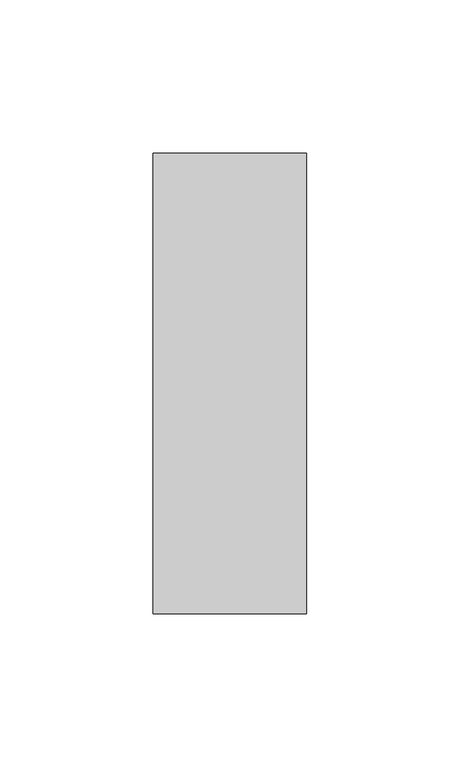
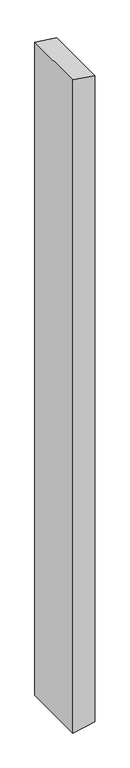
"""IFC4 building model written with IfcOpenShell, lengths in millimetres: member geometry, Прямоугольный импост : 50 x 150 мм."""

import ifcopenshell
import ifcopenshell.guid

model = None  # the IFC model being written
_history = None  # IfcOwnerHistory: only IFC2X3 demands one
_inside = {}  # id of a spatial element -> (the spatial element, [elements in it])
_under = {}  # id of a project, library or spatial element -> (it, [spatial elements below it])
_declared = {}  # id of a project -> (the project, [libraries it declares])
_typed = {}  # id of a type object -> (the type object, [elements of that type])
_made_of = {}  # id of a material, layer set ... -> (it, [elements and type objects made of it])


def new_model(schema):
    """Start an empty IFC model of exactly this schema.

    Asked for "IFC4X3", IfcOpenShell would pick the latest addendum, in which some entities
    have other attributes; the version numbers below select the first issue.
    IFC2X3 requires an IfcOwnerHistory on every rooted entity: one is made here for all.
    """
    global model, _history
    if schema == "IFC4X3":
        model = ifcopenshell.file(schema_version=(4, 3, 0, 0))
    else:
        model = ifcopenshell.file(schema=schema)
    _inside.clear()
    _under.clear()
    _declared.clear()
    _typed.clear()
    _made_of.clear()
    _history = None
    if model.schema == "IFC2X3":
        org = make("IfcOrganization", Name="unknown")
        user = make(
            "IfcPersonAndOrganization",
            ThePerson=make("IfcPerson", FamilyName="unknown"),
            TheOrganization=org,
        )
        app = make(
            "IfcApplication",
            ApplicationDeveloper=org,
            Version="unknown",
            ApplicationFullName="unknown",
            ApplicationIdentifier="unknown",
        )
        _history = make(
            "IfcOwnerHistory",
            OwningUser=user,
            OwningApplication=app,
            ChangeAction="ADDED",
            CreationDate=0,
        )
    return model


def make(cls, **values):
    """One entity of the class cls with the attributes given. An attribute that is None is left unset."""
    return model.create_entity(
        cls, **{name: value for name, value in values.items() if value is not None}
    )


def rooted(cls, **values):
    """An entity with a GlobalId (a new one), such as an element, a storey or a relation."""
    return make(cls, GlobalId=ifcopenshell.guid.new(), OwnerHistory=_history, **values)


def si_unit(unit_type, name, prefix=None):
    """IfcSIUnit, for example si_unit("LENGTHUNIT", "METRE", prefix="MILLI")."""
    return make("IfcSIUnit", UnitType=unit_type, Prefix=prefix, Name=name)


def assignment(units):
    """IfcUnitAssignment: the units of a project."""
    return None if units is None else make("IfcUnitAssignment", Units=units)


def point(xyz):
    """IfcCartesianPoint."""
    return None if xyz is None else make("IfcCartesianPoint", Coordinates=xyz)


def direction(xyz):
    """IfcDirection."""
    return None if xyz is None else make("IfcDirection", DirectionRatios=xyz)


def frame(location, z_axis=None, x_axis=None):
    """IfcAxis2Placement3D, a coordinate frame: its origin and axes. An axis left out is left unset."""
    return make(
        "IfcAxis2Placement3D",
        Location=point(location),
        Axis=direction(z_axis),
        RefDirection=direction(x_axis),
    )


def origin():
    """The frame at (0, 0, 0) with its axes left unset."""
    return frame((0.0, 0.0, 0.0))


def place(relative_to, where):
    """IfcLocalPlacement: puts the frame where relative to a parent placement (None: the world)."""
    return make(
        "IfcLocalPlacement", PlacementRelTo=relative_to, RelativePlacement=where
    )


def context(
    kind, dimensions, precision=None, world=None, true_north=None, identifier=None
):
    """IfcGeometricRepresentationContext, for example the 3D "Model" context."""
    return make(
        "IfcGeometricRepresentationContext",
        ContextIdentifier=identifier,
        ContextType=kind,
        CoordinateSpaceDimension=dimensions,
        Precision=precision,
        WorldCoordinateSystem=world,
        TrueNorth=true_north,
    )


def project(units=None, contexts=None):
    """IfcProject with its units and contexts."""
    return rooted(
        "IfcProject",
        Name="project",
        RepresentationContexts=contexts,
        UnitsInContext=assignment(units),
    )


def spatial(cls, under=None, at=None, **own):
    """A site, building, storey or space (cls), placed at a placement, below another one or the project."""
    s = rooted(cls, ObjectPlacement=at, **own)
    if under is not None:
        _under.setdefault(under.id(), (under, []))[1].append(s)
    return s


def polyline(points):
    """IfcPolyline through the points."""
    return make("IfcPolyline", Points=[point(p) for p in points])


def outline(outer, holes=None, kind="AREA"):
    """IfcArbitraryClosedProfileDef: a profile drawn as a closed curve; with holes, ...WithVoids."""
    if holes is None:
        return make("IfcArbitraryClosedProfileDef", ProfileType=kind, OuterCurve=outer)
    return make(
        "IfcArbitraryProfileDefWithVoids",
        ProfileType=kind,
        OuterCurve=outer,
        InnerCurves=holes,
    )


def extrude(swept, where, along, depth):
    """IfcExtrudedAreaSolid: the profile swept, set in the frame where, extruded along a direction by depth."""
    return make(
        "IfcExtrudedAreaSolid",
        SweptArea=swept,
        Position=where,
        ExtrudedDirection=direction(along),
        Depth=depth,
    )


def shape(context_of_items, identifier, shape_type, items):
    """IfcShapeRepresentation: the items that make up one representation, for example the "Body"."""
    return make(
        "IfcShapeRepresentation",
        ContextOfItems=context_of_items,
        RepresentationIdentifier=identifier,
        RepresentationType=shape_type,
        Items=items,
    )


def source(mapping_origin, context_of_items, identifier, shape_type, items):
    """IfcRepresentationMap: a shape defined once, which mapped items show again and again."""
    return make(
        "IfcRepresentationMap",
        MappingOrigin=mapping_origin,
        MappedRepresentation=shape(context_of_items, identifier, shape_type, items),
    )


def transform(
    local_origin,
    x_axis=None,
    y_axis=None,
    z_axis=None,
    scale=None,
    scale2=None,
    scale3=None,
    uniform=True,
):
    """IfcCartesianTransformationOperator3D, or its non-uniform kind. x_axis, y_axis, z_axis: its Axis1, 2, 3."""
    if uniform:
        return make(
            "IfcCartesianTransformationOperator3D",
            Axis1=direction(x_axis),
            Axis2=direction(y_axis),
            LocalOrigin=point(local_origin),
            Scale=scale,
            Axis3=direction(z_axis),
        )
    return make(
        "IfcCartesianTransformationOperator3DnonUniform",
        Axis1=direction(x_axis),
        Axis2=direction(y_axis),
        LocalOrigin=point(local_origin),
        Scale=scale,
        Axis3=direction(z_axis),
        Scale2=scale2,
        Scale3=scale3,
    )


def mapped(mapping_source, mapping_target):
    """IfcMappedItem: shows the shape of a source again, moved by a transform."""
    return make(
        "IfcMappedItem", MappingSource=mapping_source, MappingTarget=mapping_target
    )


def made_of(thing, what):
    """Note that an element or type object is made of a material, layer set ...; save() writes the relation."""
    if what is not None:
        _made_of.setdefault(what.id(), (what, []))[1].append(thing)
    return thing


def element(
    cls,
    number,
    at=None,
    inside=None,
    cuts=None,
    type_object=None,
    material=None,
    context=None,
    identifier="Body",
    shape_type=None,
    held_by="IfcProductDefinitionShape",
    body=None,
    shapes=None,
    **own,
):
    """One element of the class cls, such as IfcWall. Its Tag is "e" and its number.

    at: its placement. inside: the storey or other place that contains it. cuts: it is an
    opening in that element (IfcRelVoidsElement). A single representation is given by context,
    identifier, shape_type and body (its items); several are given by shapes. held_by: the class
    of the entity that holds the representations. save() writes the other relations.
    """
    e = rooted(cls, Tag="e%d" % number, ObjectPlacement=at, **own)
    if body is not None:
        shapes = [shape(context, identifier, shape_type, body)]
    if shapes is not None:
        e.Representation = make(held_by, Representations=shapes)
    if inside is not None:
        _inside.setdefault(inside.id(), (inside, []))[1].append(e)
    if cuts is not None:
        rooted(
            "IfcRelVoidsElement", RelatingBuildingElement=cuts, RelatedOpeningElement=e
        )
    if type_object is not None:
        _typed.setdefault(type_object.id(), (type_object, []))[1].append(e)
    return made_of(e, material)


def aggregate(whole, parts):
    """IfcRelAggregates: a whole, such as a stair, and the parts it consists of."""
    return rooted("IfcRelAggregates", RelatingObject=whole, RelatedObjects=parts)


def save(model, path):
    """Write the relations noted so far, then the file.

    IfcRelAggregates (storeys below a building ...), IfcRelContainedInSpatialStructure (elements
    in a storey), IfcRelDefinesByType, IfcRelAssociatesMaterial and IfcRelDeclares: one each for
    every whole, place, type object, material and project.
    """
    for whole, parts in _under.values():
        aggregate(whole, parts)
    for where, things in _inside.values():
        rooted(
            "IfcRelContainedInSpatialStructure",
            RelatedElements=things,
            RelatingStructure=where,
        )
    for kind, things in _typed.values():
        rooted("IfcRelDefinesByType", RelatedObjects=things, RelatingType=kind)
    for what, things in _made_of.values():
        rooted("IfcRelAssociatesMaterial", RelatedObjects=things, RelatingMaterial=what)
    for by, libraries in _declared.values():
        rooted("IfcRelDeclares", RelatingContext=by, RelatedDefinitions=libraries)
    model.write(path)


def member_fa821e70(model_context):
    return source(origin(), model_context, "Body", "SweptSolid", [
        extrude(outline(polyline([(0.0, 0.0), (7.2908263, -50.0), (-1568.8341671, -50.0), (-1559.160866, 0.0), (0.0, 0.0)])), frame((0.0, -75.0, 0.0), z_axis=(0.0, 1.0, 0.0), x_axis=(0.0, 0.0, 1.0)), (0.0, 0.0, 1.0), 150.0),
    ])


if __name__ == "__main__":
    model = new_model("IFC4")
    model_context = context("Model", 3, world=origin())
    ifc_project = project(units=[si_unit("LENGTHUNIT", "METRE", prefix="MILLI")], contexts=[model_context])
    site = spatial("IfcSite", under=ifc_project)
    building = spatial("IfcBuilding", under=site)
    placement = place(None, origin())
    member_shape = member_fa821e70(model_context)
    element("IfcMember", 1, ObjectType="Прямоугольный импост : 50 x 150 мм", at=placement, inside=building, context=model_context, shape_type="MappedRepresentation", body=[
        mapped(member_shape, transform((0.0, 0.0, 0.0), x_axis=(1.0, 0.0, 0.0), y_axis=(0.0, 1.0, 0.0), z_axis=(0.0, 0.0, 1.0))),
    ])
    save(model, "model.ifc")
